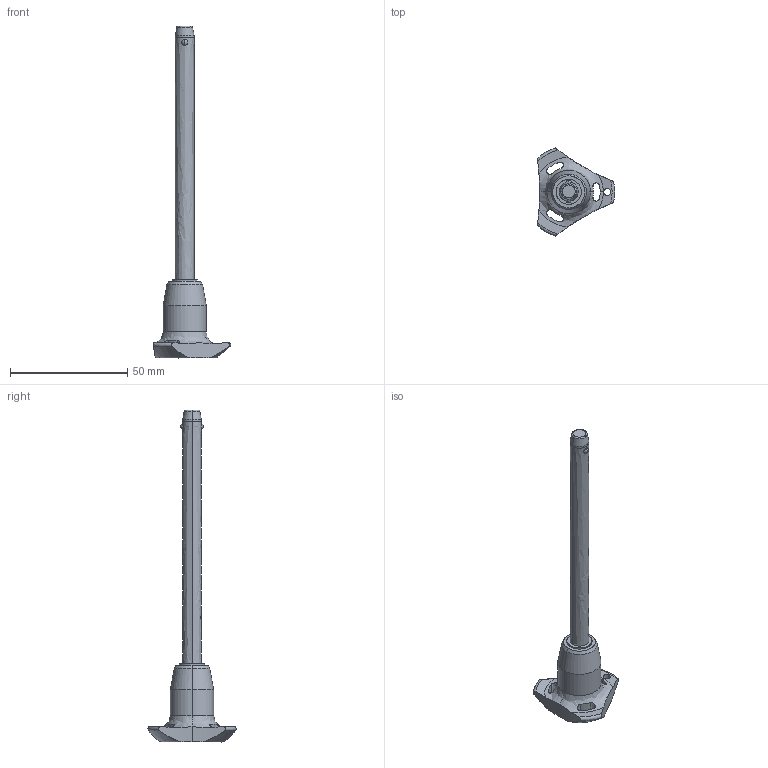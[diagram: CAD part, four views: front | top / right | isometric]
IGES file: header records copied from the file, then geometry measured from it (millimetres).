
Start section: SolidWorks IGES file using analytic representation for surfaces
Global section: file name: C:\Users\ianosborn\Desktop\QR1726_v2\QR1726_v2_20251115_IGES\QR1726.M08-100-T.igs; native system: SolidWorks 2019; preprocessor: SolidWorks 2019; author: IanOsborn; date: 251113.110137; units: millimetre
Bounding box: 33 x 37.51 x 141.5 mm (x, y, z)
Surface area: 6472.6 mm2 (no closed solid volume)
Topology: 0 solids, 0 shells, 68 faces, 1340 edges, 1336 vertices
Faces by surface type: revolution 52, bspline 16
